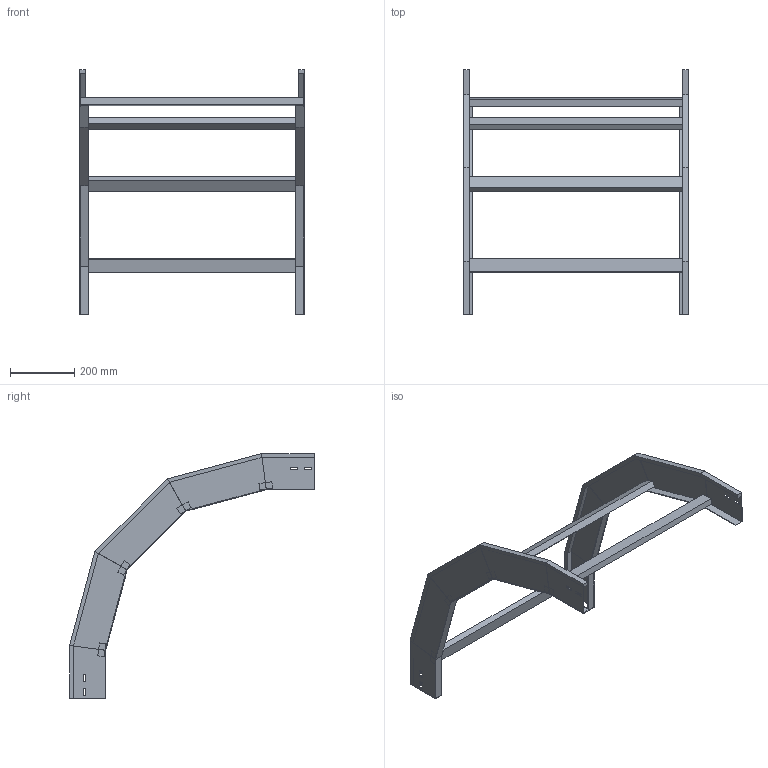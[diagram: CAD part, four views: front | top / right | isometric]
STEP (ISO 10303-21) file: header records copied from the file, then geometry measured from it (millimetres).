
FILE_DESCRIPTION (( 'STEP AP214' ), '1' );
FILE_NAME ('33B5J700.step', '2025-02-21T15:03:14', ( '' ), ( '' ), 'SwSTEP 2.0', 'SolidWorks 2023', '' );
FILE_SCHEMA (( 'AUTOMOTIVE_DESIGN' ));
Length unit declared in the file: millimetre
Products named in the file (3): TRAVERSINO_700; 33B5J700; LONGH.DISCESA_90°_H112.5_R500
Assembly tree (6 placements, depth 2):
  33B5J700
    LONGH.DISCESA_90°_H112.5_R500  x2
    TRAVERSINO_700  x4
Bounding box: 700 x 762.85 x 762.85 mm (x, y, z)
Volume: 3364482 mm3; surface area: 1065803.5 mm2
Topology: 6 solids, 6 shells, 140 faces, 320 edges, 192 vertices
Faces by surface type: plane 140
Entity records: 1872 total; most frequent: CARTESIAN_POINT 309, ORIENTED_EDGE 296, DIRECTION 294, VECTOR 148, LINE 148, EDGE_CURVE 148, VERTEX_POINT 88, AXIS2_PLACEMENT_3D 73
